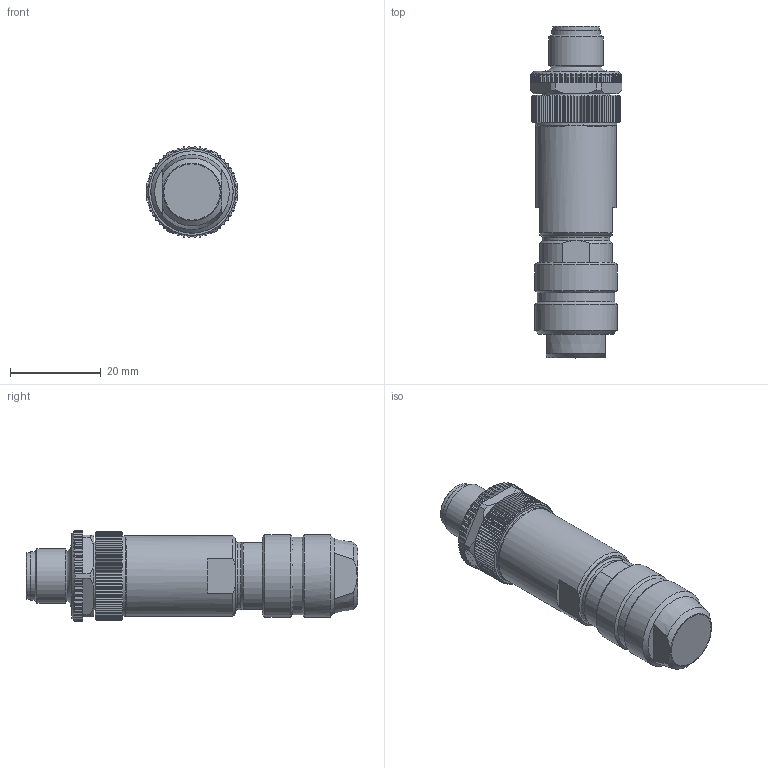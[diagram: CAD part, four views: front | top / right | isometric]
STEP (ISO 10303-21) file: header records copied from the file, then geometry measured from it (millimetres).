
FILE_DESCRIPTION(/* description */ (''),/* implementation_level */ '2;1');
FILE_NAME(/* name */ '99 3721 810 04 001_00.stp',/* time_stamp */ '2013-10-11T10:46:05+02:00',/* author */ (''),/* organization */ (''),/* preprocessor_version */ 'ST-DEVELOPER v14',/* originating_system */ 'SIEMENS PLM Software NX 8.0',/* authorisation */ '');
FILE_SCHEMA (('AUTOMOTIVE_DESIGN { 1 0 10303 214 3 1 1 1 }'));
Length unit declared in the file: millimetre
Products named in the file (1): cerl110C6366hwnq
Bounding box: 20.2 x 73 x 20.16 mm (x, y, z)
Volume: 15333.7 mm3; surface area: 5890.7 mm2
Topology: 1 solids, 2 shells, 838 faces, 2039 edges, 1219 vertices
Faces by surface type: plane 376, cylinder 234, cone 225, torus 3
Full cylindrical faces by diameter (mm): 2.6 x4, 2.95 x4, 3.3 x4, 8.3 x1, 10.3 x1, 10.6 x1, 12 x1, 14.8 x1, 15 x1, 16.1 x1, 17.1 x1, 17.188 x1, 17.7 x1, 18.1 x2
Entity records: 25667 total; most frequent: CARTESIAN_POINT 7224, ORIENTED_EDGE 3952, DIRECTION 3643, EDGE_CURVE 1976, AXIS2_PLACEMENT_3D 1451, VERTEX_POINT 1198, EDGE_LOOP 896, ADVANCED_FACE 838
